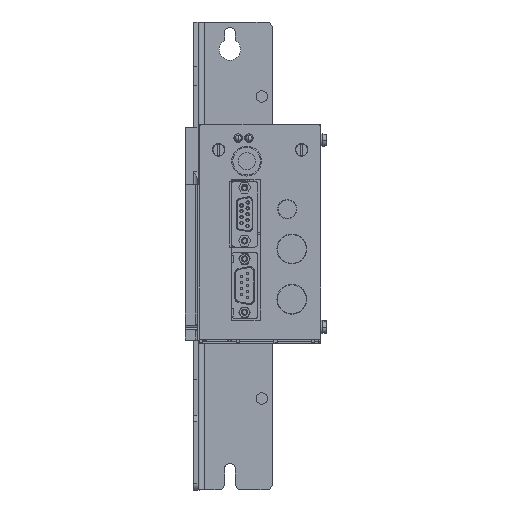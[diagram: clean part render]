
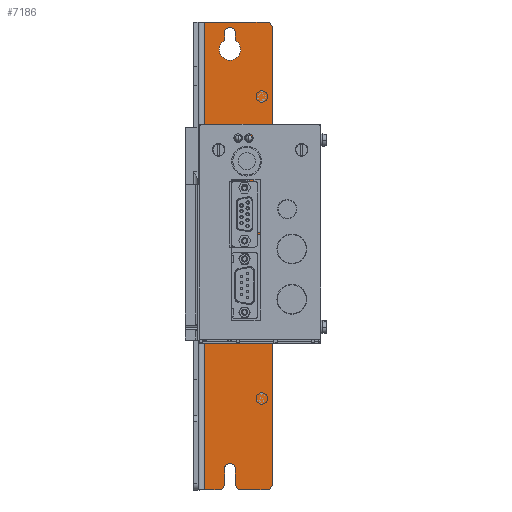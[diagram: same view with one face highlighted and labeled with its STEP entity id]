
A CAD part, front view. The second image highlights one B-rep face of the part: STEP entity #7186.
In plain terms, the highlighted planar face has unit normal (0, -1, 0).
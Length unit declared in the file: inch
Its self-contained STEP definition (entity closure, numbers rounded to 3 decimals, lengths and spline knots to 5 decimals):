
#7186=ADVANCED_FACE('',(#16459,#16460),#16461,.T.);
#16459=FACE_OUTER_BOUND('',#28344,.T.);
#16460=FACE_BOUND('',#28345,.T.);
#16461=PLANE('',#28346);
#28344=EDGE_LOOP('',(#48399,#48400,#48401,#48402,#48403,#48404,#48405,#48406,#48407,#48408,#48409,#48410));
#28345=EDGE_LOOP('',(#48411,#48412,#48413,#48414,#48415));
#28346=AXIS2_PLACEMENT_3D('',#48416,#48417,#48418);
#48399=ORIENTED_EDGE('',*,*,#75476,.F.);
#48400=ORIENTED_EDGE('',*,*,#75477,.F.);
#48401=ORIENTED_EDGE('',*,*,#75478,.F.);
#48402=ORIENTED_EDGE('',*,*,#75479,.T.);
#48403=ORIENTED_EDGE('',*,*,#75480,.T.);
#48404=ORIENTED_EDGE('',*,*,#75481,.T.);
#48405=ORIENTED_EDGE('',*,*,#75482,.F.);
#48406=ORIENTED_EDGE('',*,*,#75483,.F.);
#48407=ORIENTED_EDGE('',*,*,#75484,.F.);
#48408=ORIENTED_EDGE('',*,*,#75485,.F.);
#48409=ORIENTED_EDGE('',*,*,#75486,.F.);
#48410=ORIENTED_EDGE('',*,*,#75487,.T.);
#48411=ORIENTED_EDGE('',*,*,#71714,.T.);
#48412=ORIENTED_EDGE('',*,*,#71908,.T.);
#48413=ORIENTED_EDGE('',*,*,#68621,.T.);
#48414=ORIENTED_EDGE('',*,*,#75488,.T.);
#48415=ORIENTED_EDGE('',*,*,#74904,.T.);
#48416=CARTESIAN_POINT('',(5.20276,15.88976,7.9685));
#48417=DIRECTION('',(0.,-1.0,0.));
#48418=DIRECTION('',(0.0,0.,-1.0));
#68621=EDGE_CURVE('',#81666,#81670,#81672,.T.);
#71714=EDGE_CURVE('',#87031,#87028,#87032,.T.);
#71908=EDGE_CURVE('',#87028,#81666,#87346,.T.);
#74904=EDGE_CURVE('',#91917,#87031,#91918,.T.);
#75476=EDGE_CURVE('',#92746,#92747,#92748,.T.);
#75477=EDGE_CURVE('',#92749,#92746,#92750,.T.);
#75478=EDGE_CURVE('',#92751,#92749,#92752,.T.);
#75479=EDGE_CURVE('',#92751,#92753,#92754,.T.);
#75480=EDGE_CURVE('',#92753,#92755,#92756,.T.);
#75481=EDGE_CURVE('',#92755,#92757,#92758,.T.);
#75482=EDGE_CURVE('',#92759,#92757,#92760,.T.);
#75483=EDGE_CURVE('',#92761,#92759,#92762,.T.);
#75484=EDGE_CURVE('',#92763,#92761,#92764,.T.);
#75485=EDGE_CURVE('',#92765,#92763,#92766,.T.);
#75486=EDGE_CURVE('',#92767,#92765,#92768,.T.);
#75487=EDGE_CURVE('',#92767,#92747,#92769,.T.);
#75488=EDGE_CURVE('',#81670,#91917,#92770,.T.);
#81666=VERTEX_POINT('',#100416);
#81670=VERTEX_POINT('',#100422);
#81672=LINE('',#100425,#100426);
#87028=VERTEX_POINT('',#107997);
#87031=VERTEX_POINT('',#108001);
#87032=CIRCLE('',#108002,0.19685);
#87346=CIRCLE('',#108447,0.19685);
#91917=VERTEX_POINT('',#115121);
#91918=LINE('',#115122,#115123);
#92746=VERTEX_POINT('',#116334);
#92747=VERTEX_POINT('',#116335);
#92748=LINE('',#116336,#116337);
#92749=VERTEX_POINT('',#116338);
#92750=LINE('',#116339,#116340);
#92751=VERTEX_POINT('',#116341);
#92752=CIRCLE('',#116342,0.11811);
#92753=VERTEX_POINT('',#116343);
#92754=LINE('',#116344,#116345);
#92755=VERTEX_POINT('',#116346);
#92756=CIRCLE('',#116347,0.09843);
#92757=VERTEX_POINT('',#116348);
#92758=LINE('',#116349,#116350);
#92759=VERTEX_POINT('',#116351);
#92760=CIRCLE('',#116352,0.11811);
#92761=VERTEX_POINT('',#116353);
#92762=LINE('',#116354,#116355);
#92763=VERTEX_POINT('',#116356);
#92764=CIRCLE('',#116357,0.11811);
#92765=VERTEX_POINT('',#116358);
#92766=LINE('',#116359,#116360);
#92767=VERTEX_POINT('',#116361);
#92768=CIRCLE('',#116362,0.11811);
#92769=LINE('',#116363,#116364);
#92770=CIRCLE('',#116365,0.09843);
#100416=CARTESIAN_POINT('',(5.57677,15.88976,7.62717));
#100422=CARTESIAN_POINT('',(5.57677,15.88976,7.77165));
#100425=CARTESIAN_POINT('',(5.57677,15.88976,7.55837));
#100426=VECTOR('',#126502,0.03937);
#107997=CARTESIAN_POINT('',(5.57677,15.88976,7.28622));
#108001=CARTESIAN_POINT('',(5.77362,15.88976,7.62717));
#108002=AXIS2_PLACEMENT_3D('',#130001,#130002,#130003);
#108447=AXIS2_PLACEMENT_3D('',#130262,#130263,#130264);
#115121=CARTESIAN_POINT('',(5.77362,15.88976,7.77165));
#115122=CARTESIAN_POINT('',(5.77362,15.88976,7.55837));
#115123=VECTOR('',#133319,0.03937);
#116334=CARTESIAN_POINT('',(5.20276,15.88976,-0.69291));
#116335=CARTESIAN_POINT('',(5.20276,15.88976,7.9685));
#116336=CARTESIAN_POINT('',(5.20276,15.88976,6.56428));
#116337=VECTOR('',#133889,0.03937);
#116338=CARTESIAN_POINT('',(5.45866,15.88976,-0.69291));
#116339=CARTESIAN_POINT('',(5.75394,15.88976,-0.69291));
#116340=VECTOR('',#133890,0.03937);
#116341=CARTESIAN_POINT('',(5.57677,15.88976,-0.5748));
#116342=AXIS2_PLACEMENT_3D('',#133891,#133892,#133893);
#116343=CARTESIAN_POINT('',(5.57677,15.88976,-0.29921));
#116344=CARTESIAN_POINT('',(5.57677,15.88976,3.50326));
#116345=VECTOR('',#133894,0.03937);
#116346=CARTESIAN_POINT('',(5.77362,15.88976,-0.29921));
#116347=AXIS2_PLACEMENT_3D('',#133895,#133896,#133897);
#116348=CARTESIAN_POINT('',(5.77362,15.88976,-0.5748));
#116349=CARTESIAN_POINT('',(5.77362,15.88976,3.50326));
#116350=VECTOR('',#133898,0.03937);
#116351=CARTESIAN_POINT('',(5.89173,15.88976,-0.69291));
#116352=AXIS2_PLACEMENT_3D('',#133899,#133900,#133901);
#116353=CARTESIAN_POINT('',(6.34449,15.88976,-0.69291));
#116354=CARTESIAN_POINT('',(5.75394,15.88976,-0.69291));
#116355=VECTOR('',#133902,0.03937);
#116356=CARTESIAN_POINT('',(6.4626,15.88976,-0.5748));
#116357=AXIS2_PLACEMENT_3D('',#133903,#133904,#133905);
#116358=CARTESIAN_POINT('',(6.4626,15.88976,7.85039));
#116359=CARTESIAN_POINT('',(6.4626,15.88976,3.53937));
#116360=VECTOR('',#133906,0.03937);
#116361=CARTESIAN_POINT('',(6.34449,15.88976,7.9685));
#116362=AXIS2_PLACEMENT_3D('',#133907,#133908,#133909);
#116363=CARTESIAN_POINT('',(5.75394,15.88976,7.9685));
#116364=VECTOR('',#133910,0.03937);
#116365=AXIS2_PLACEMENT_3D('',#133911,#133912,#133913);
#126502=DIRECTION('',(0.0,0.0,1.0));
#130001=CARTESIAN_POINT('',(5.6752,15.88976,7.45669));
#130002=DIRECTION('',(-0.0,1.0,0.0));
#130003=DIRECTION('',(0.5,0.0,0.866));
#130262=CARTESIAN_POINT('',(5.6752,15.88976,7.45669));
#130263=DIRECTION('',(-0.0,1.0,0.0));
#130264=DIRECTION('',(0.5,0.0,0.866));
#133319=DIRECTION('',(0.0,0.0,-1.0));
#133889=DIRECTION('',(0.,0.0,1.0));
#133890=DIRECTION('',(-1.0,0.0,0.0));
#133891=CARTESIAN_POINT('',(5.45866,15.88976,-0.5748));
#133892=DIRECTION('',(0.0,1.0,0.0));
#133893=DIRECTION('',(1.0,0.0,0.));
#133894=DIRECTION('',(0.0,0.0,1.0));
#133895=CARTESIAN_POINT('',(5.6752,15.88976,-0.29921));
#133896=DIRECTION('',(0.0,1.0,0.0));
#133897=DIRECTION('',(-1.0,0.0,0.));
#133898=DIRECTION('',(0.0,0.0,-1.0));
#133899=CARTESIAN_POINT('',(5.89173,15.88976,-0.5748));
#133900=DIRECTION('',(0.0,1.0,0.0));
#133901=DIRECTION('',(0.,0.0,-1.0));
#133902=DIRECTION('',(-1.0,0.0,0.));
#133903=CARTESIAN_POINT('',(6.34449,15.88976,-0.5748));
#133904=DIRECTION('',(0.0,1.0,0.0));
#133905=DIRECTION('',(1.0,0.0,0.));
#133906=DIRECTION('',(0.0,0.0,-1.0));
#133907=CARTESIAN_POINT('',(6.34449,15.88976,7.85039));
#133908=DIRECTION('',(0.0,1.0,0.0));
#133909=DIRECTION('',(0.,0.0,1.0));
#133910=DIRECTION('',(-1.0,0.0,0.0));
#133911=CARTESIAN_POINT('',(5.6752,15.88976,7.77165));
#133912=DIRECTION('',(0.0,1.0,0.0));
#133913=DIRECTION('',(-1.0,0.0,0.0));
